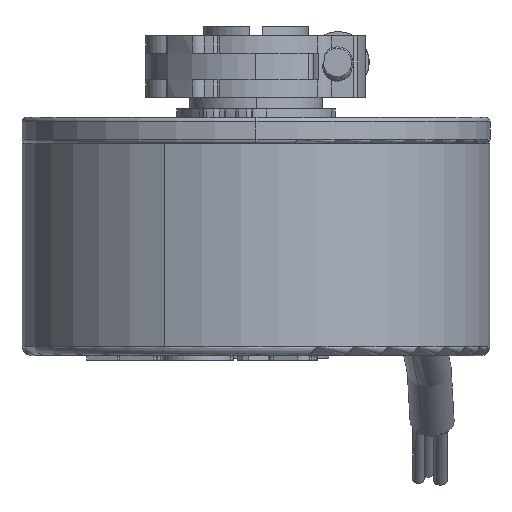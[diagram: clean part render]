
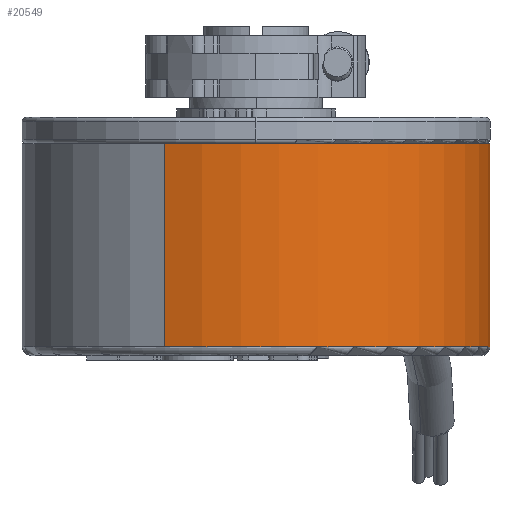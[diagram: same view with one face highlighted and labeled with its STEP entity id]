
A CAD part, left-side view. The second image highlights one B-rep face of the part: STEP entity #20549.
In plain terms, the highlighted cylindrical face has radius 26.5 mm (diameter 53 mm), a partial arc.
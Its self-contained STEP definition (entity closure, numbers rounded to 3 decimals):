
#767 = EDGE_CURVE ( 'NONE', #3587, #19010, #17516, .T. ) ;
#2320 = VERTEX_POINT ( 'NONE', #4641 ) ;
#2357 = AXIS2_PLACEMENT_3D ( 'NONE', #27800, #10254, #25665 ) ;
#2652 = VECTOR ( 'NONE', #10705, 1000. ) ;
#2809 = ORIENTED_EDGE ( 'NONE', *, *, #11383, .T. ) ;
#2937 = ORIENTED_EDGE ( 'NONE', *, *, #7308, .T. ) ;
#3587 = VERTEX_POINT ( 'NONE', #27828 ) ;
#4641 = CARTESIAN_POINT ( 'NONE',  ( -24.408, 10.319, -3. ) ) ;
#5391 = FACE_OUTER_BOUND ( 'NONE', #19703, .T. ) ;
#5635 = DIRECTION ( 'NONE',  ( 0.921, -0.389, 0. ) ) ;
#6383 = AXIS2_PLACEMENT_3D ( 'NONE', #8772, #15559, #6574 ) ;
#6574 = DIRECTION ( 'NONE',  ( 0.921, -0.389, 0. ) ) ;
#7117 = CYLINDRICAL_SURFACE ( 'NONE', #2357, 26.5 ) ;
#7308 = EDGE_CURVE ( 'NONE', #17918, #3587, #16483, .T. ) ;
#7867 = CARTESIAN_POINT ( 'NONE',  ( 17.05, -20.286, -3. ) ) ;
#7934 = VECTOR ( 'NONE', #26847, 1000. ) ;
#8772 = CARTESIAN_POINT ( 'NONE',  ( 0., 0., -26. ) ) ;
#10210 = CIRCLE ( 'NONE', #16166, 26.5 ) ;
#10254 = DIRECTION ( 'NONE',  ( 0., 0., -1. ) ) ;
#10705 = DIRECTION ( 'NONE',  ( 0., 0., -1. ) ) ;
#11216 = EDGE_CURVE ( 'NONE', #2320, #19010, #10210, .T. ) ;
#11383 = EDGE_CURVE ( 'NONE', #2320, #17918, #20178, .T. ) ;
#11557 = CARTESIAN_POINT ( 'NONE',  ( 17.05, -20.286, -3.5 ) ) ;
#12717 = CARTESIAN_POINT ( 'NONE',  ( -24.408, 10.319, -3.5 ) ) ;
#14475 = CARTESIAN_POINT ( 'NONE',  ( -24.408, 10.319, -26. ) ) ;
#15559 = DIRECTION ( 'NONE',  ( 0., 0., 1. ) ) ;
#16166 = AXIS2_PLACEMENT_3D ( 'NONE', #21267, #23221, #5635 ) ;
#16483 = CIRCLE ( 'NONE', #6383, 26.5 ) ;
#17516 = LINE ( 'NONE', #11557, #7934 ) ;
#17664 = ORIENTED_EDGE ( 'NONE', *, *, #11216, .F. ) ;
#17918 = VERTEX_POINT ( 'NONE', #14475 ) ;
#19010 = VERTEX_POINT ( 'NONE', #7867 ) ;
#19703 = EDGE_LOOP ( 'NONE', ( #17664, #2809, #2937, #26530 ) ) ;
#20178 = LINE ( 'NONE', #12717, #2652 ) ;
#20549 = ADVANCED_FACE ( 'NONE', ( #5391 ), #7117, .T. ) ;
#21267 = CARTESIAN_POINT ( 'NONE',  ( 0., 0., -3. ) ) ;
#23221 = DIRECTION ( 'NONE',  ( 0., 0., 1. ) ) ;
#25665 = DIRECTION ( 'NONE',  ( -0.921, 0.389, 0. ) ) ;
#26530 = ORIENTED_EDGE ( 'NONE', *, *, #767, .T. ) ;
#26847 = DIRECTION ( 'NONE',  ( 0., 0., 1. ) ) ;
#27800 = CARTESIAN_POINT ( 'NONE',  ( 0., 0., -3.5 ) ) ;
#27828 = CARTESIAN_POINT ( 'NONE',  ( 17.05, -20.286, -26. ) ) ;
